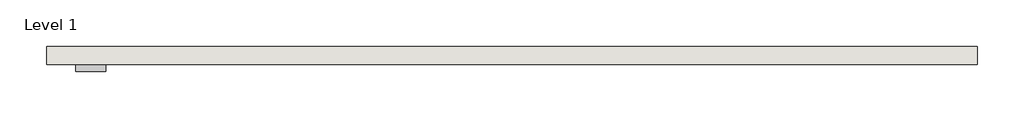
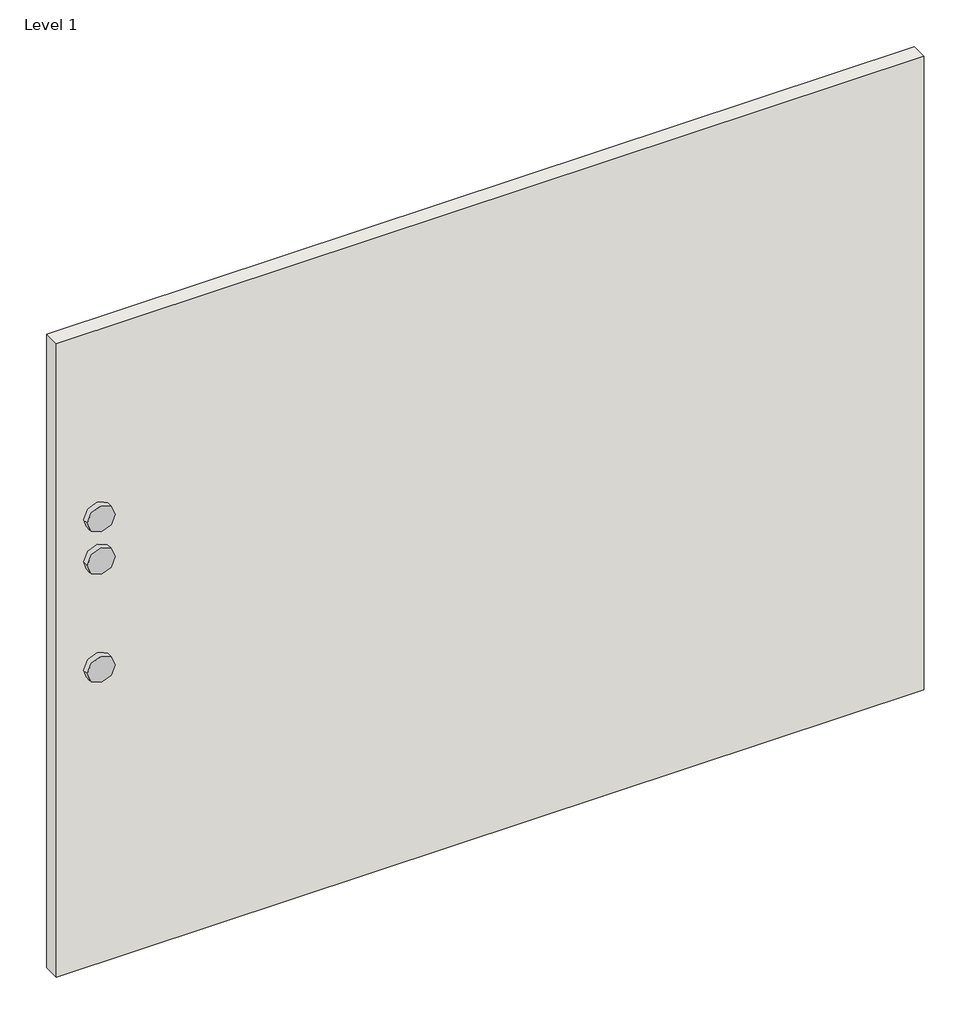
# One storey, incomplete: 3 proxies, 1 wall.
"""IFC4 building model written with IfcOpenShell, lengths in millimetres."""

import ifcopenshell
import ifcopenshell.guid

model = None  # the IFC model being written
_history = None  # IfcOwnerHistory: only IFC2X3 demands one
_inside = {}  # id of a spatial element -> (the spatial element, [elements in it])
_under = {}  # id of a project, library or spatial element -> (it, [spatial elements below it])
_declared = {}  # id of a project -> (the project, [libraries it declares])
_typed = {}  # id of a type object -> (the type object, [elements of that type])
_made_of = {}  # id of a material, layer set ... -> (it, [elements and type objects made of it])


def new_model(schema):
    """Start an empty IFC model of exactly this schema.

    Asked for "IFC4X3", IfcOpenShell would pick the latest addendum, in which some entities
    have other attributes; the version numbers below select the first issue.
    IFC2X3 requires an IfcOwnerHistory on every rooted entity: one is made here for all.
    """
    global model, _history
    if schema == "IFC4X3":
        model = ifcopenshell.file(schema_version=(4, 3, 0, 0))
    else:
        model = ifcopenshell.file(schema=schema)
    _inside.clear()
    _under.clear()
    _declared.clear()
    _typed.clear()
    _made_of.clear()
    _history = None
    if model.schema == "IFC2X3":
        org = make("IfcOrganization", Name="unknown")
        user = make(
            "IfcPersonAndOrganization",
            ThePerson=make("IfcPerson", FamilyName="unknown"),
            TheOrganization=org,
        )
        app = make(
            "IfcApplication",
            ApplicationDeveloper=org,
            Version="unknown",
            ApplicationFullName="unknown",
            ApplicationIdentifier="unknown",
        )
        _history = make(
            "IfcOwnerHistory",
            OwningUser=user,
            OwningApplication=app,
            ChangeAction="ADDED",
            CreationDate=0,
        )
    return model


def make(cls, **values):
    """One entity of the class cls with the attributes given. An attribute that is None is left unset."""
    return model.create_entity(
        cls, **{name: value for name, value in values.items() if value is not None}
    )


def rooted(cls, **values):
    """An entity with a GlobalId (a new one), such as an element, a storey or a relation."""
    return make(cls, GlobalId=ifcopenshell.guid.new(), OwnerHistory=_history, **values)


def si_unit(unit_type, name, prefix=None):
    """IfcSIUnit, for example si_unit("LENGTHUNIT", "METRE", prefix="MILLI")."""
    return make("IfcSIUnit", UnitType=unit_type, Prefix=prefix, Name=name)


def assignment(units):
    """IfcUnitAssignment: the units of a project."""
    return None if units is None else make("IfcUnitAssignment", Units=units)


def point(xyz):
    """IfcCartesianPoint."""
    return None if xyz is None else make("IfcCartesianPoint", Coordinates=xyz)


def direction(xyz):
    """IfcDirection."""
    return None if xyz is None else make("IfcDirection", DirectionRatios=xyz)


def frame(location, z_axis=None, x_axis=None):
    """IfcAxis2Placement3D, a coordinate frame: its origin and axes. An axis left out is left unset."""
    return make(
        "IfcAxis2Placement3D",
        Location=point(location),
        Axis=direction(z_axis),
        RefDirection=direction(x_axis),
    )


def frame_2d(location, x_axis=None):
    """IfcAxis2Placement2D, a coordinate frame in the plane: its origin and x axis."""
    return make(
        "IfcAxis2Placement2D", Location=point(location), RefDirection=direction(x_axis)
    )


def origin():
    """The frame at (0, 0, 0) with its axes left unset."""
    return frame((0.0, 0.0, 0.0))


def origin_with_axes():
    """The frame at (0, 0, 0) with the z axis (0, 0, 1) and the x axis (1, 0, 0) written out."""
    return frame((0.0, 0.0, 0.0), z_axis=(0.0, 0.0, 1.0), x_axis=(1.0, 0.0, 0.0))


def place(relative_to, where):
    """IfcLocalPlacement: puts the frame where relative to a parent placement (None: the world)."""
    return make(
        "IfcLocalPlacement", PlacementRelTo=relative_to, RelativePlacement=where
    )


def context(
    kind, dimensions, precision=None, world=None, true_north=None, identifier=None
):
    """IfcGeometricRepresentationContext, for example the 3D "Model" context."""
    return make(
        "IfcGeometricRepresentationContext",
        ContextIdentifier=identifier,
        ContextType=kind,
        CoordinateSpaceDimension=dimensions,
        Precision=precision,
        WorldCoordinateSystem=world,
        TrueNorth=true_north,
    )


def project(units=None, contexts=None):
    """IfcProject with its units and contexts."""
    return rooted(
        "IfcProject",
        Name="project",
        RepresentationContexts=contexts,
        UnitsInContext=assignment(units),
    )


def spatial(cls, under=None, at=None, **own):
    """A site, building, storey or space (cls), placed at a placement, below another one or the project."""
    s = rooted(cls, ObjectPlacement=at, **own)
    if under is not None:
        _under.setdefault(under.id(), (under, []))[1].append(s)
    return s


def polyline(points):
    """IfcPolyline through the points."""
    return make("IfcPolyline", Points=[point(p) for p in points])


def circle_curve(where, radius):
    """IfcCircle in the frame where."""
    return make("IfcCircle", Position=where, Radius=radius)


def trimmed(basis, trim1, trim2, sense, master):
    """IfcTrimmedCurve: the piece of a basis curve between two trims."""
    return make(
        "IfcTrimmedCurve",
        BasisCurve=basis,
        Trim1=trim1,
        Trim2=trim2,
        SenseAgreement=sense,
        MasterRepresentation=master,
    )


def segment(curve, same_sense, transition):
    """IfcCompositeCurveSegment."""
    return make(
        "IfcCompositeCurveSegment",
        Transition=transition,
        SameSense=same_sense,
        ParentCurve=curve,
    )


def composite_curve(segments, self_intersect=None):
    """IfcCompositeCurve: segments joined end to end."""
    return make("IfcCompositeCurve", Segments=segments, SelfIntersect=self_intersect)


def outline(outer, holes=None, kind="AREA"):
    """IfcArbitraryClosedProfileDef: a profile drawn as a closed curve; with holes, ...WithVoids."""
    if holes is None:
        return make("IfcArbitraryClosedProfileDef", ProfileType=kind, OuterCurve=outer)
    return make(
        "IfcArbitraryProfileDefWithVoids",
        ProfileType=kind,
        OuterCurve=outer,
        InnerCurves=holes,
    )


def extrude(swept, where, along, depth):
    """IfcExtrudedAreaSolid: the profile swept, set in the frame where, extruded along a direction by depth."""
    return make(
        "IfcExtrudedAreaSolid",
        SweptArea=swept,
        Position=where,
        ExtrudedDirection=direction(along),
        Depth=depth,
    )


def shape(context_of_items, identifier, shape_type, items):
    """IfcShapeRepresentation: the items that make up one representation, for example the "Body"."""
    return make(
        "IfcShapeRepresentation",
        ContextOfItems=context_of_items,
        RepresentationIdentifier=identifier,
        RepresentationType=shape_type,
        Items=items,
    )


def source(mapping_origin, context_of_items, identifier, shape_type, items):
    """IfcRepresentationMap: a shape defined once, which mapped items show again and again."""
    return make(
        "IfcRepresentationMap",
        MappingOrigin=mapping_origin,
        MappedRepresentation=shape(context_of_items, identifier, shape_type, items),
    )


def transform(
    local_origin,
    x_axis=None,
    y_axis=None,
    z_axis=None,
    scale=None,
    scale2=None,
    scale3=None,
    uniform=True,
):
    """IfcCartesianTransformationOperator3D, or its non-uniform kind. x_axis, y_axis, z_axis: its Axis1, 2, 3."""
    if uniform:
        return make(
            "IfcCartesianTransformationOperator3D",
            Axis1=direction(x_axis),
            Axis2=direction(y_axis),
            LocalOrigin=point(local_origin),
            Scale=scale,
            Axis3=direction(z_axis),
        )
    return make(
        "IfcCartesianTransformationOperator3DnonUniform",
        Axis1=direction(x_axis),
        Axis2=direction(y_axis),
        LocalOrigin=point(local_origin),
        Scale=scale,
        Axis3=direction(z_axis),
        Scale2=scale2,
        Scale3=scale3,
    )


def mapped(mapping_source, mapping_target):
    """IfcMappedItem: shows the shape of a source again, moved by a transform."""
    return make(
        "IfcMappedItem", MappingSource=mapping_source, MappingTarget=mapping_target
    )


def made_of(thing, what):
    """Note that an element or type object is made of a material, layer set ...; save() writes the relation."""
    if what is not None:
        _made_of.setdefault(what.id(), (what, []))[1].append(thing)
    return thing


def element(
    cls,
    number,
    at=None,
    inside=None,
    cuts=None,
    type_object=None,
    material=None,
    context=None,
    identifier="Body",
    shape_type=None,
    held_by="IfcProductDefinitionShape",
    body=None,
    shapes=None,
    **own,
):
    """One element of the class cls, such as IfcWall. Its Tag is "e" and its number.

    at: its placement. inside: the storey or other place that contains it. cuts: it is an
    opening in that element (IfcRelVoidsElement). A single representation is given by context,
    identifier, shape_type and body (its items); several are given by shapes. held_by: the class
    of the entity that holds the representations. save() writes the other relations.
    """
    e = rooted(cls, Tag="e%d" % number, ObjectPlacement=at, **own)
    if body is not None:
        shapes = [shape(context, identifier, shape_type, body)]
    if shapes is not None:
        e.Representation = make(held_by, Representations=shapes)
    if inside is not None:
        _inside.setdefault(inside.id(), (inside, []))[1].append(e)
    if cuts is not None:
        rooted(
            "IfcRelVoidsElement", RelatingBuildingElement=cuts, RelatedOpeningElement=e
        )
    if type_object is not None:
        _typed.setdefault(type_object.id(), (type_object, []))[1].append(e)
    return made_of(e, material)


def aggregate(whole, parts):
    """IfcRelAggregates: a whole, such as a stair, and the parts it consists of."""
    return rooted("IfcRelAggregates", RelatingObject=whole, RelatedObjects=parts)


def save(model, path):
    """Write the relations noted so far, then the file.

    IfcRelAggregates (storeys below a building ...), IfcRelContainedInSpatialStructure (elements
    in a storey), IfcRelDefinesByType, IfcRelAssociatesMaterial and IfcRelDeclares: one each for
    every whole, place, type object, material and project.
    """
    for whole, parts in _under.values():
        aggregate(whole, parts)
    for where, things in _inside.values():
        rooted(
            "IfcRelContainedInSpatialStructure",
            RelatedElements=things,
            RelatingStructure=where,
        )
    for kind, things in _typed.values():
        rooted("IfcRelDefinesByType", RelatedObjects=things, RelatingType=kind)
    for what, things in _made_of.values():
        rooted("IfcRelAssociatesMaterial", RelatedObjects=things, RelatingMaterial=what)
    for by, libraries in _declared.values():
        rooted("IfcRelDeclares", RelatingContext=by, RelatedDefinitions=libraries)
    model.write(path)


def materialmodel_materialmodel_d9ff14ed(model_context):
    return source(origin(), model_context, "Body", "SweptSolid", [
        extrude(outline(composite_curve([segment(trimmed(circle_curve(frame_2d((75.0, 0.0)), 25.0), [point((75.0, -25.0))], [point((75.0, 25.0))], False, "CARTESIAN"), True, "CONTINUOUS"), segment(trimmed(circle_curve(frame_2d((75.0, 0.0)), 25.0), [point((75.0, 25.0))], [point((75.0, -25.0))], False, "CARTESIAN"), True, "CONTINUOUS")], self_intersect=False)), frame((0.0, -11.8565782, 0.0), z_axis=(0.0, 1.0, 0.0), x_axis=(0.0, 0.0, 1.0)), (0.0, 0.0, 1.0), 11.8565782),
    ])


model = new_model("IFC4")

# Units and contexts
model_context = context("Model", 3, world=origin())
ifc_project = project(units=[si_unit("LENGTHUNIT", "METRE", prefix="MILLI")], contexts=[model_context])

# Site, building, storey
site = spatial("IfcSite", under=ifc_project)
building = spatial("IfcBuilding", under=site)
storey = spatial("IfcBuildingStorey", under=building, Name="Level 1", Elevation=0.0)

# Proxies
placement = place(None, origin())
materialmodel_materialmodel_shape = materialmodel_materialmodel_d9ff14ed(model_context)
element("IfcBuildingElementProxy", 1, Name="MaterialModel : MaterialModel", ObjectType="MaterialModel : MaterialModel", at=placement, inside=storey, context=model_context, shape_type="MappedRepresentation", body=[
    mapped(materialmodel_materialmodel_shape, transform((-14274.8751611, 5257.5863071, 774.967093), x_axis=(1.0, 0.0, 0.0), y_axis=(0.0, 1.0, 0.0), z_axis=(0.0, 0.0, 1.0))),
])
element("IfcBuildingElementProxy", 2, Name="MaterialModel : MaterialModel", ObjectType="MaterialModel : MaterialModel", at=placement, inside=storey, context=model_context, shape_type="MappedRepresentation", body=[
    mapped(materialmodel_materialmodel_shape, transform((-14274.8751611, 5257.5863071, 489.967093), x_axis=(1.0, 0.0, 0.0), y_axis=(0.0, 1.0, 0.0), z_axis=(0.0, 0.0, 1.0))),
])
element("IfcBuildingElementProxy", 3, Name="MaterialModel : MaterialModel", ObjectType="MaterialModel : MaterialModel", at=placement, inside=storey, context=model_context, shape_type="MappedRepresentation", body=[
    mapped(materialmodel_materialmodel_shape, transform((-14274.8751611, 5257.5863071, 694.967093), x_axis=(1.0, 0.0, 0.0), y_axis=(0.0, 1.0, 0.0), z_axis=(0.0, 0.0, 1.0))),
])

# Wall
element("IfcWall", 4, ObjectType="Presentation wall", at=placement, inside=storey, context=model_context, shape_type="SweptSolid", body=[
    extrude(outline(polyline([(-12793.5118995, 5257.6728282), (-14348.5118995, 5257.6728282), (-14348.5118995, 5287.6728282), (-12793.5118995, 5287.6728282), (-12793.5118995, 5257.6728282)])), origin_with_axes(), (0.0, 0.0, 1.0), 1200.0),
])

save(model, "model.ifc")
